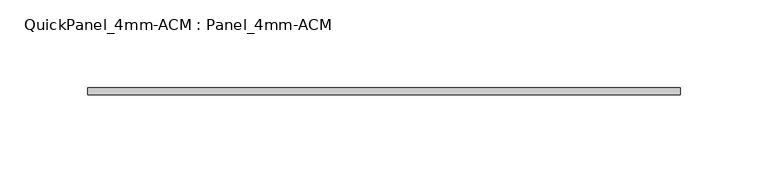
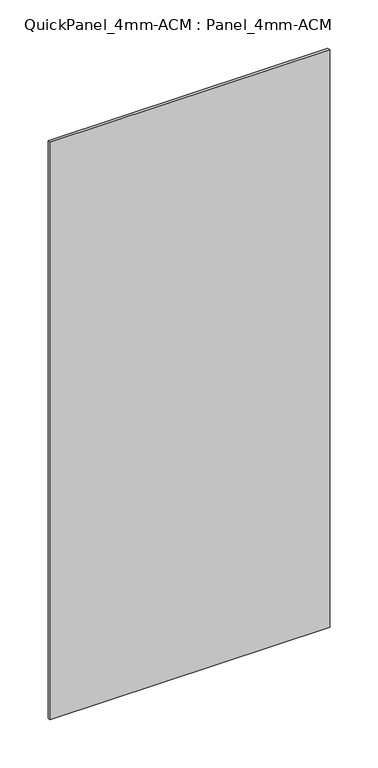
"""IFC4 building model written with IfcOpenShell, lengths in millimetres: plate geometry, QuickPanel_4mm-ACM : Panel_4mm-ACM."""

from ifc_helpers import new_model, si_unit, origin, origin_with_axes, place, context, project, spatial, polyline, outline, extrude, source, transform, mapped, element, save


def quickpanel_4mm_acm_panel_4mm_acm_83a7dec8(model_context):
    return source(origin(), model_context, "Body", "SweptSolid", [
        extrude(outline(polyline([(-168.2255019, -6.096), (168.2255019, -6.096), (168.2255019, -9.906), (-168.2255019, -9.906), (-168.2255019, -6.096)])), origin_with_axes(), (0.0, 0.0, 1.0), 734.3930447),
    ])


if __name__ == "__main__":
    model = new_model("IFC4")
    model_context = context("Model", 3, world=origin())
    ifc_project = project(units=[si_unit("LENGTHUNIT", "METRE", prefix="MILLI")], contexts=[model_context])
    site = spatial("IfcSite", under=ifc_project)
    building = spatial("IfcBuilding", under=site)
    placement = place(None, origin())
    quickpanel_4mm_acm_panel_4mm_acm_shape = quickpanel_4mm_acm_panel_4mm_acm_83a7dec8(model_context)
    element("IfcPlate", 1, ObjectType="QuickPanel_4mm-ACM : Panel_4mm-ACM", at=placement, inside=building, context=model_context, shape_type="MappedRepresentation", body=[
        mapped(quickpanel_4mm_acm_panel_4mm_acm_shape, transform((0.0, 0.0, 0.0), x_axis=(1.0, 0.0, 0.0), y_axis=(0.0, 1.0, 0.0), z_axis=(0.0, 0.0, 1.0))),
    ])
    save(model, "model.ifc")
